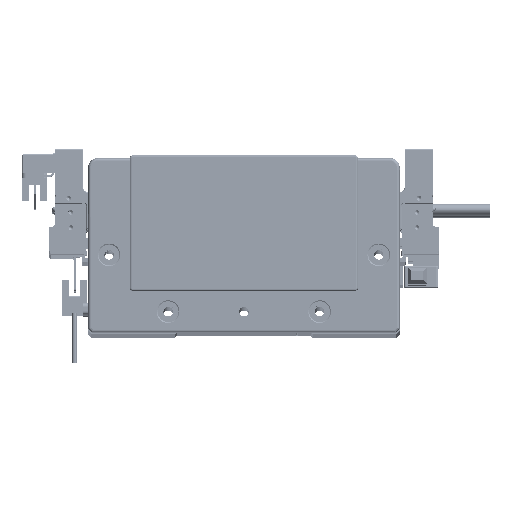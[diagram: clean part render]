
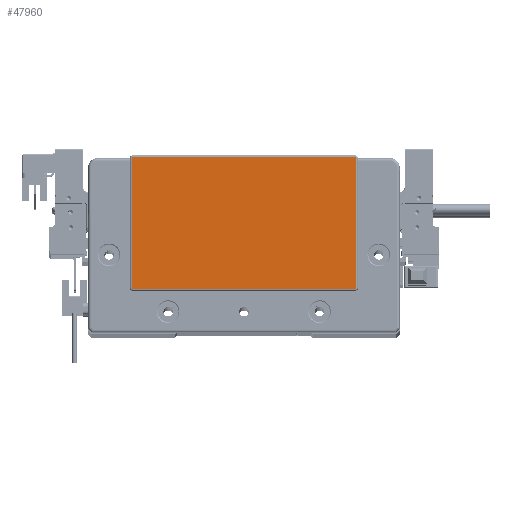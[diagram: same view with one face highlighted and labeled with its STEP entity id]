
A CAD part, top view. The second image highlights one B-rep face of the part: STEP entity #47960.
In plain terms, the highlighted planar face has unit normal (0, 0, 1) as drawn and (0, 0, -1) by its records, which use the part's own axes.
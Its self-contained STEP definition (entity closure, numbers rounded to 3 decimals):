
#494 = VECTOR ( 'NONE', #74199, 1000. ) ;
#600 = CARTESIAN_POINT ( 'NONE',  ( 58.75, 45.8, -2. ) ) ;
#1363 = VERTEX_POINT ( 'NONE', #109881 ) ;
#2335 = EDGE_CURVE ( 'NONE', #54068, #42953, #13075, .T. ) ;
#3350 = CARTESIAN_POINT ( 'NONE',  ( -58.75, -23.3, -2. ) ) ;
#3747 = CARTESIAN_POINT ( 'NONE',  ( -58.75, 45.8, -2. ) ) ;
#8671 = CIRCLE ( 'NONE', #76688, 0.5 ) ;
#11232 = CARTESIAN_POINT ( 'NONE',  ( 0., 0., -2. ) ) ;
#12506 = ORIENTED_EDGE ( 'NONE', *, *, #2335, .T. ) ;
#13075 = LINE ( 'NONE', #66294, #47038 ) ;
#14232 = LINE ( 'NONE', #83750, #494 ) ;
#19328 = ORIENTED_EDGE ( 'NONE', *, *, #102809, .T. ) ;
#19701 = DIRECTION ( 'NONE',  ( -1., 0., 0. ) ) ;
#19976 = VERTEX_POINT ( 'NONE', #39043 ) ;
#25210 = EDGE_CURVE ( 'NONE', #98496, #71596, #8671, .T. ) ;
#25986 = DIRECTION ( 'NONE',  ( 0., 0., -1. ) ) ;
#27611 = ORIENTED_EDGE ( 'NONE', *, *, #25210, .T. ) ;
#31014 = DIRECTION ( 'NONE',  ( 1., 0., 0. ) ) ;
#31274 = DIRECTION ( 'NONE',  ( 0., 0., -1. ) ) ;
#37029 = DIRECTION ( 'NONE',  ( 0., 0., -1. ) ) ;
#39043 = CARTESIAN_POINT ( 'NONE',  ( 58.75, -23.8, -2. ) ) ;
#39436 = CARTESIAN_POINT ( 'NONE',  ( -58.75, -23.8, -2. ) ) ;
#41737 = CIRCLE ( 'NONE', #56074, 0.5 ) ;
#42004 = CARTESIAN_POINT ( 'NONE',  ( 59.25, -23.3, -2. ) ) ;
#42544 = LINE ( 'NONE', #42004, #73856 ) ;
#42953 = VERTEX_POINT ( 'NONE', #600 ) ;
#44796 = EDGE_CURVE ( 'NONE', #1363, #99598, #42544, .T. ) ;
#45089 = EDGE_CURVE ( 'NONE', #99598, #19976, #57857, .T. ) ;
#45337 = AXIS2_PLACEMENT_3D ( 'NONE', #46419, #31274, #98054 ) ;
#46419 = CARTESIAN_POINT ( 'NONE',  ( 58.75, -23.3, -2. ) ) ;
#47038 = VECTOR ( 'NONE', #31014, 1000. ) ;
#47960 = ADVANCED_FACE ( 'NONE', ( #72350 ), #55522, .T. ) ;
#52014 = ORIENTED_EDGE ( 'NONE', *, *, #88187, .T. ) ;
#52670 = EDGE_CURVE ( 'NONE', #19976, #98496, #79549, .T. ) ;
#53169 = CIRCLE ( 'NONE', #87230, 0.5 ) ;
#54068 = VERTEX_POINT ( 'NONE', #3747 ) ;
#54884 = DIRECTION ( 'NONE',  ( -1., 0., 0. ) ) ;
#55522 = PLANE ( 'NONE',  #90456 ) ;
#56074 = AXIS2_PLACEMENT_3D ( 'NONE', #93971, #84447, #68116 ) ;
#57857 = CIRCLE ( 'NONE', #45337, 0.5 ) ;
#63301 = DIRECTION ( 'NONE',  ( 0., 0., -1. ) ) ;
#65392 = ORIENTED_EDGE ( 'NONE', *, *, #52670, .T. ) ;
#66294 = CARTESIAN_POINT ( 'NONE',  ( 58.75, 45.8, -2. ) ) ;
#67785 = DIRECTION ( 'NONE',  ( 0., -1., 0. ) ) ;
#68116 = DIRECTION ( 'NONE',  ( -1., 0., 0. ) ) ;
#70405 = EDGE_LOOP ( 'NONE', ( #99221, #100523, #65392, #27611, #71170, #19328, #12506, #52014 ) ) ;
#71170 = ORIENTED_EDGE ( 'NONE', *, *, #87406, .T. ) ;
#71309 = VECTOR ( 'NONE', #105335, 1000. ) ;
#71596 = VERTEX_POINT ( 'NONE', #98121 ) ;
#72350 = FACE_OUTER_BOUND ( 'NONE', #70405, .T. ) ;
#73856 = VECTOR ( 'NONE', #67785, 1000. ) ;
#74199 = DIRECTION ( 'NONE',  ( 0., 1., 0. ) ) ;
#74218 = VERTEX_POINT ( 'NONE', #74659 ) ;
#74659 = CARTESIAN_POINT ( 'NONE',  ( -59.25, 45.3, -2. ) ) ;
#76688 = AXIS2_PLACEMENT_3D ( 'NONE', #3350, #63301, #54884 ) ;
#77546 = DIRECTION ( 'NONE',  ( -1., 0., 0. ) ) ;
#79549 = LINE ( 'NONE', #106447, #71309 ) ;
#83750 = CARTESIAN_POINT ( 'NONE',  ( -59.25, 45.3, -2. ) ) ;
#84447 = DIRECTION ( 'NONE',  ( 0., 0., -1. ) ) ;
#87230 = AXIS2_PLACEMENT_3D ( 'NONE', #102791, #25986, #77546 ) ;
#87406 = EDGE_CURVE ( 'NONE', #71596, #74218, #14232, .T. ) ;
#88187 = EDGE_CURVE ( 'NONE', #42953, #1363, #41737, .T. ) ;
#89423 = CARTESIAN_POINT ( 'NONE',  ( 59.25, -23.3, -2. ) ) ;
#90456 = AXIS2_PLACEMENT_3D ( 'NONE', #11232, #37029, #19701 ) ;
#93971 = CARTESIAN_POINT ( 'NONE',  ( 58.75, 45.3, -2. ) ) ;
#98054 = DIRECTION ( 'NONE',  ( -1., 0., 0. ) ) ;
#98121 = CARTESIAN_POINT ( 'NONE',  ( -59.25, -23.3, -2. ) ) ;
#98496 = VERTEX_POINT ( 'NONE', #39436 ) ;
#99221 = ORIENTED_EDGE ( 'NONE', *, *, #44796, .T. ) ;
#99598 = VERTEX_POINT ( 'NONE', #89423 ) ;
#100523 = ORIENTED_EDGE ( 'NONE', *, *, #45089, .T. ) ;
#102791 = CARTESIAN_POINT ( 'NONE',  ( -58.75, 45.3, -2. ) ) ;
#102809 = EDGE_CURVE ( 'NONE', #74218, #54068, #53169, .T. ) ;
#105335 = DIRECTION ( 'NONE',  ( -1., 0., 0. ) ) ;
#106447 = CARTESIAN_POINT ( 'NONE',  ( -58.75, -23.8, -2. ) ) ;
#109881 = CARTESIAN_POINT ( 'NONE',  ( 59.25, 45.3, -2. ) ) ;
